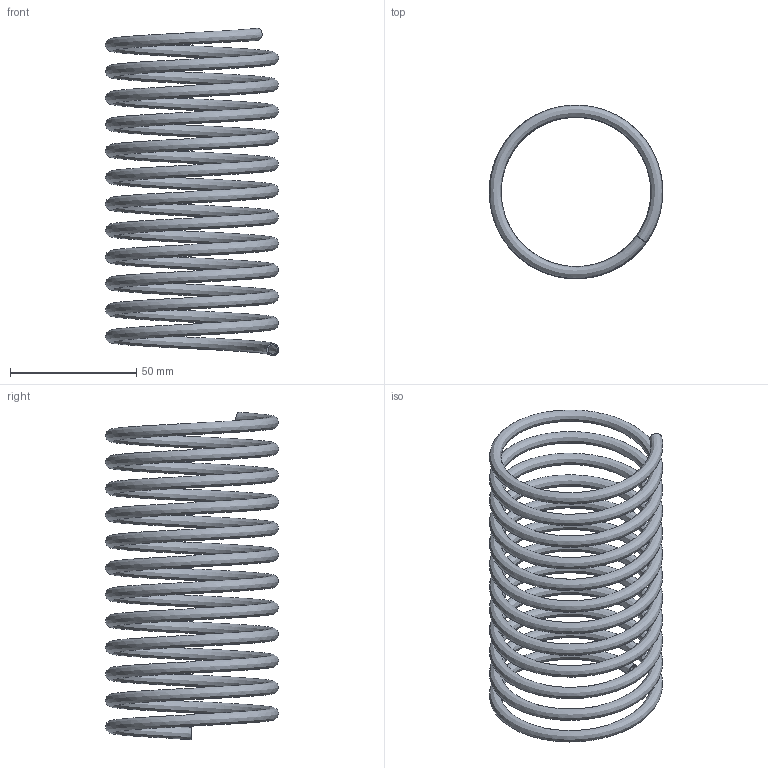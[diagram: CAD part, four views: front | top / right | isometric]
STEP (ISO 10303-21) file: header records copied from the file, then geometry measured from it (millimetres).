
FILE_DESCRIPTION(('Open CASCADE Model'),'2;1');
FILE_NAME('Open CASCADE Shape Model','2026-10-21T10:33:18',('Author'),( 'Open CASCADE'),'Open CASCADE STEP processor 7.9','Open CASCADE 7.9' ,'Unknown');
FILE_SCHEMA(('AUTOMOTIVE_DESIGN { 1 0 10303 214 1 1 1 1 }'));
Length unit declared in the file: millimetre
Products named in the file (1): Open CASCADE STEP translator 7.9 6
Bounding box: 68.76 x 68.75 x 129.71 mm (x, y, z)
Volume: 16292.4 mm3; surface area: 63949.1 mm2
Topology: 1 solids, 1 shells, 4 faces, 6 edges, 4 vertices
Faces by surface type: bspline 2, plane 2
Entity records: 2524 total; most frequent: CARTESIAN_POINT 2407, DIRECTION 14, ORIENTED_EDGE 12, PCURVE 12, DEFINITIONAL_REPRESENTATION 12, LINE 8, VECTOR 8, FACE_BOUND 6
